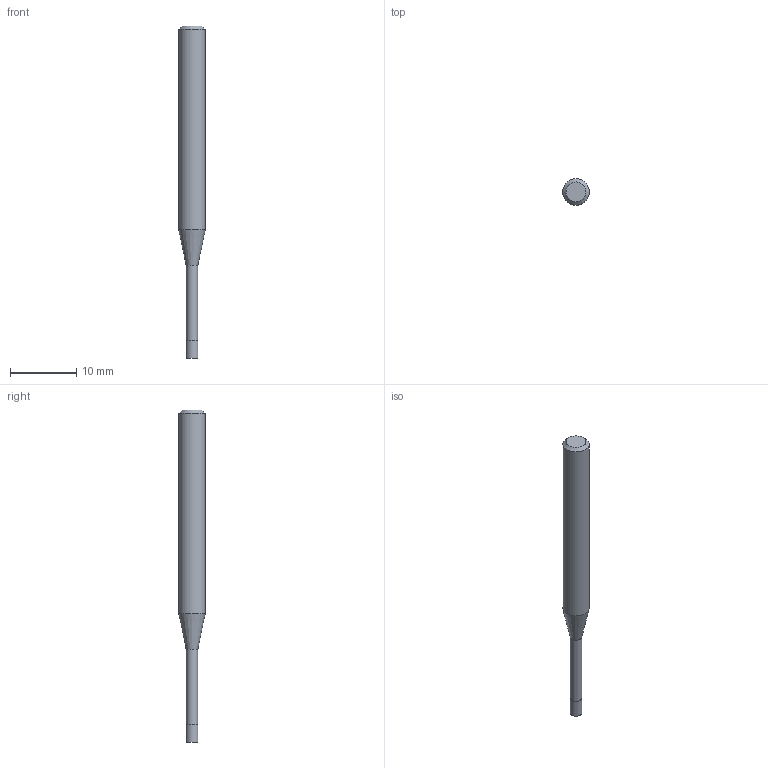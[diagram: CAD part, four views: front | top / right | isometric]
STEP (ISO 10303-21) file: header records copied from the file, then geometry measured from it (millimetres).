
FILE_DESCRIPTION((''),'2;1');
FILE_NAME('C:\Users\nsx150\AppData\Local\Temp\Mastercam 2021\17T8Q8S9EB\TEMP.step','2021-04-21T14:27:23',(''),(''),'STEP Write','Mastercam 2021 ... CNC Software, Inc.','');
FILE_SCHEMA(('AUTOMOTIVE_DESIGN'));
Length unit declared in the file: millimetre
Products named in the file (1): None
Bounding box: 4 x 4 x 50 mm (x, y, z)
Volume: 454.6 mm3; surface area: 528.2 mm2
Topology: 2 solids, 2 shells, 9 faces, 12 edges, 7 vertices
Faces by surface type: plane 4, cylinder 3, cone 2
Full cylindrical faces by diameter (mm): 1.75 x1, 1.8 x1, 4 x1
Entity records: 211 total; most frequent: DIRECTION 36, CARTESIAN_POINT 25, AXIS2_PLACEMENT_3D 18, ORIENTED_EDGE 14, EDGE_LOOP 14, STYLED_ITEM 12, ADVANCED_FACE 9, FACE_BOUND 8
